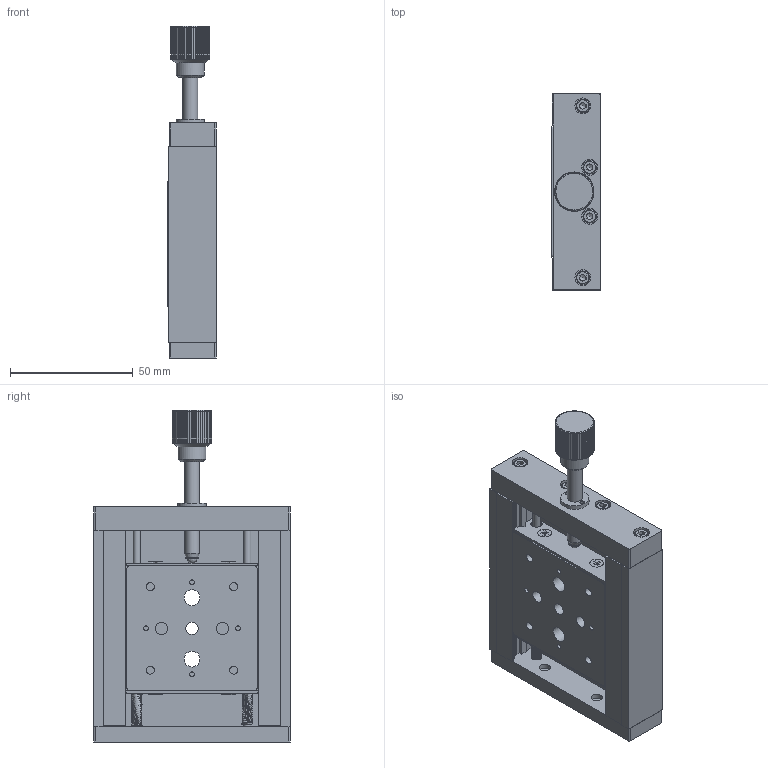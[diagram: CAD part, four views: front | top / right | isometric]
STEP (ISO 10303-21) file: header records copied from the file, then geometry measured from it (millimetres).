
FILE_DESCRIPTION (( 'STEP AP203' ), '1' );
FILE_NAME ('TCM53X-1A.step', '2017-01-10T09:14:08', ( '¦K¬P' ), ( '' ), 'SwSTEP 2.0', 'SolidWorks 2012', '' );
FILE_SCHEMA (( 'CONFIG_CONTROL_DESIGN' ));
Length unit declared in the file: millimetre
Products named in the file (1): TCM53X-1A
Bounding box: 19.6 x 80 x 135.3 mm (x, y, z)
Surface area: 49698.6 mm2 (no closed solid volume)
Topology: 0 solids, 30 shells, 455 faces, 1435 edges, 978 vertices
Faces by surface type: plane 294, cylinder 137, cone 20, bspline 2, torus 1, sphere 1
Full cylindrical faces by diameter (mm): 1.7 x2, 2 x6, 2.5 x1, 3 x2, 3.3 x11, 4.5 x8, 4.6 x4, 5 x5, 5.2 x1, 5.5 x4, 6 x5, 6.5 x10, 8 x4, 9.5 x1, 11 x4, 11.4 x1, 11.5 x1, 12 x1
Entity records: 22227 total; most frequent: CARTESIAN_POINT 10082, DIRECTION 2367, ORIENTED_EDGE 2292, EDGE_CURVE 1317, VERTEX_POINT 956, AXIS2_PLACEMENT_3D 829, LINE 709, VECTOR 709
